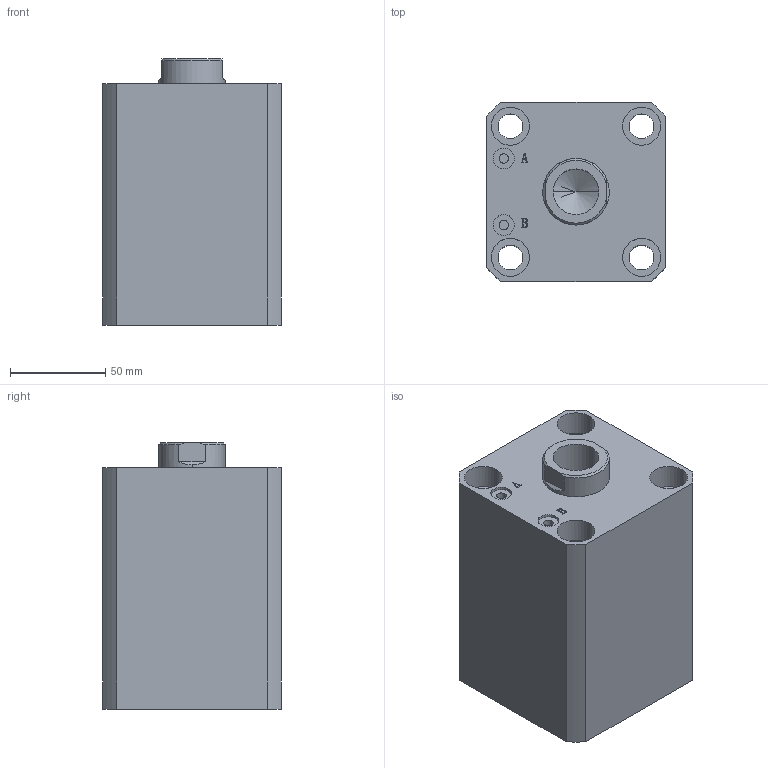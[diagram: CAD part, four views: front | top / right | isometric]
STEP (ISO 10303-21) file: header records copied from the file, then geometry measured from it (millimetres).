
FILE_DESCRIPTION (( 'STEP AP203' ), '1' );
FILE_NAME ('HTB-SDMA63-60N.STEP', '2019-10-08T01:09:12', ( '微软用户' ), ( '微软中国' ), 'SwSTEP 2.0', 'SolidWorks 2012', '' );
FILE_SCHEMA (( 'CONFIG_CONTROL_DESIGN' ));
Length unit declared in the file: millimetre
Products named in the file (3): HTB-SDMA63-60N; HTB-SDMA63-60N活塞杆; HTB-SDMA63-60掛极
Assembly tree (2 placements, depth 2):
  HTB-SDMA63-60N
    HTB-SDMA63-60掛极
    HTB-SDMA63-60N活塞杆
Bounding box: 94 x 94 x 140 mm (x, y, z)
Volume: 886498.2 mm3; surface area: 133233.3 mm2
Topology: 2 solids, 2 shells, 137 faces, 331 edges, 217 vertices
Faces by surface type: plane 65, cylinder 46, bspline 16, torus 6, cone 4
Entity records: 5070 total; most frequent: CARTESIAN_POINT 1576, ORIENTED_EDGE 658, DIRECTION 647, EDGE_CURVE 329, AXIS2_PLACEMENT_3D 232, VERTEX_POINT 217, LINE 183, VECTOR 183
